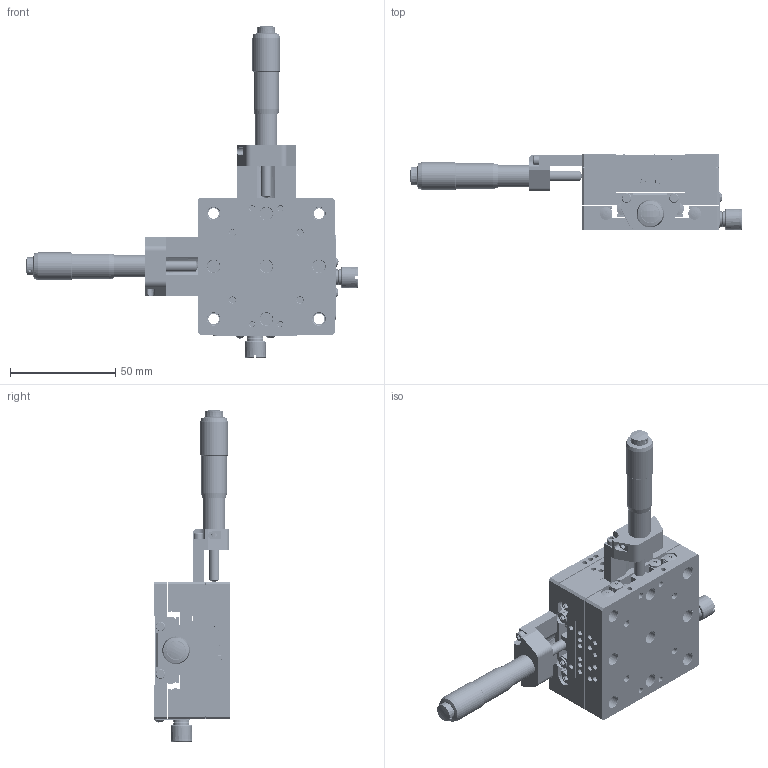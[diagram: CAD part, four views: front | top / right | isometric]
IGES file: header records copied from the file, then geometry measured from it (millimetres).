
Start section: SolidWorks IGES file using analytic representation for surfaces
Global section: file name: E:\0产品2d3d图纸-20180629\0-3种格式文件\产品图纸3d\06PHS\65\PHS-652C.IGS; native system: SolidWorks 2015; preprocessor: SolidWorks 2015; author: Administrator; date: 181115.180024; units: millimetre
Bounding box: 157.48 x 36 x 157.48 mm (x, y, z)
Surface area: 81152.4 mm2 (no closed solid volume)
Topology: 0 solids, 0 shells, 1762 faces, 27814 edges, 27808 vertices
Faces by surface type: revolution 938, bspline 824
